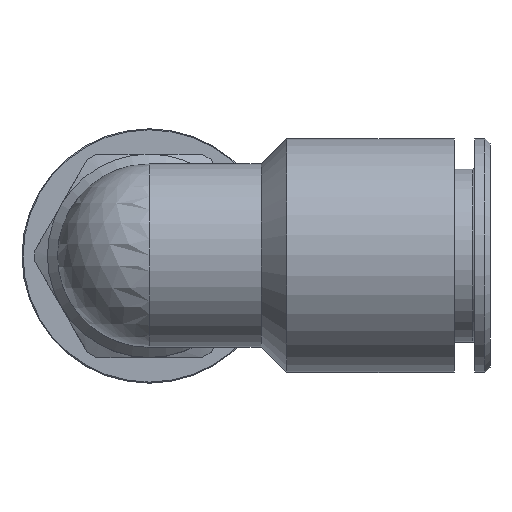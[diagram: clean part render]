
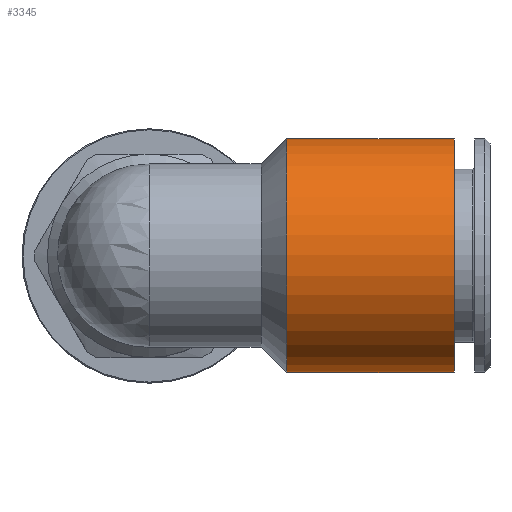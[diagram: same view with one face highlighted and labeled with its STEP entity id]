
A CAD part, top view. The second image highlights one B-rep face of the part: STEP entity #3345.
In plain terms, the highlighted cylindrical face has radius 11.5 mm (diameter 23 mm), a full revolution.
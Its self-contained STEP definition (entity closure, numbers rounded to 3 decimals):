
#1310=ORIENTED_EDGE('',*,*,#1697,.T.);
#1311=ORIENTED_EDGE('',*,*,#1696,.F.);
#1523=CIRCLE('',#3143,11.5);
#1524=CIRCLE('',#3145,11.5);
#1604=VERTEX_POINT('',#2861);
#1605=VERTEX_POINT('',#2864);
#1696=EDGE_CURVE('',#1604,#1604,#1523,.T.);
#1697=EDGE_CURVE('',#1605,#1605,#1524,.T.);
#1817=EDGE_LOOP('',(#1310));
#1818=EDGE_LOOP('',(#1311));
#1959=FACE_BOUND('',#1817,.T.);
#1960=FACE_BOUND('',#1818,.T.);
#2121=DIRECTION('',(0.,1.,0.));
#2122=DIRECTION('',(11.5,0.,0.));
#2123=DIRECTION('',(0.,1.,0.));
#2124=DIRECTION('',(1.,0.,0.));
#2125=DIRECTION('',(0.,1.,0.));
#2126=DIRECTION('',(11.5,0.,0.));
#2861=CARTESIAN_POINT('',(18.824,44.716,0.));
#2862=CARTESIAN_POINT('',(7.324,44.716,0.));
#2863=CARTESIAN_POINT('',(7.324,28.216,0.));
#2864=CARTESIAN_POINT('',(18.824,28.216,0.));
#2865=CARTESIAN_POINT('',(7.324,28.216,0.));
#3143=AXIS2_PLACEMENT_3D('',#2862,#2121,#2122);
#3144=AXIS2_PLACEMENT_3D('',#2863,#2123,#2124);
#3145=AXIS2_PLACEMENT_3D('',#2865,#2125,#2126);
#3310=CYLINDRICAL_SURFACE('',#3144,11.5);
#3345=ADVANCED_FACE('',(#1959,#1960),#3310,.T.);
